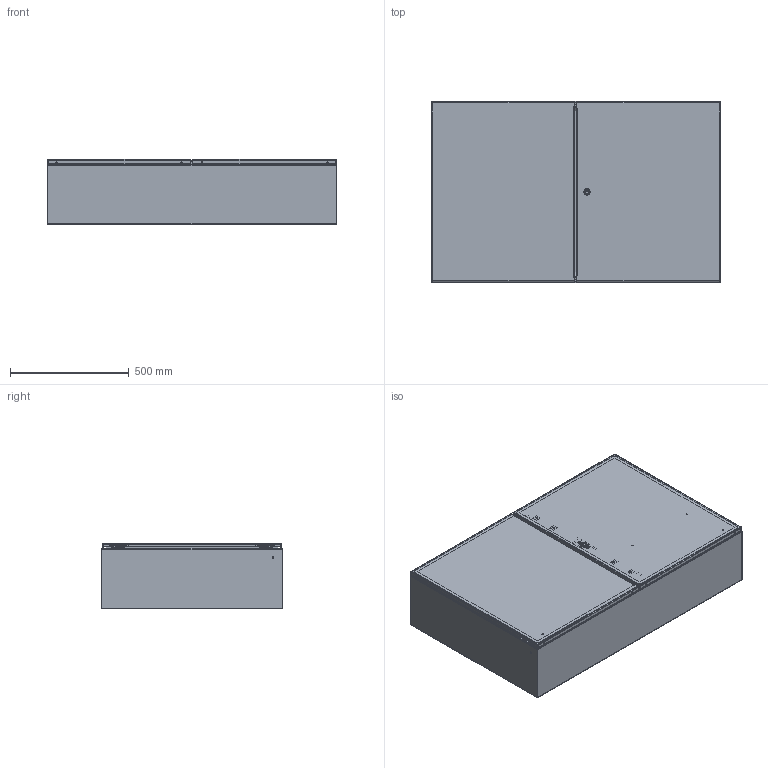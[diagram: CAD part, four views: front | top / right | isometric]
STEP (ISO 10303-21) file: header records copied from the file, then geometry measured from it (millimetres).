
FILE_DESCRIPTION (( 'STEP AP203' ), '1' );
FILE_NAME ('29444.step', '2015-03-30T07:52:55', ( '' ), ( '' ), 'SwSTEP 2.0', 'SolidWorks 2010', '' );
FILE_SCHEMA (( 'CONFIG_CONTROL_DESIGN' ));
Products named in the file (36): 29444; 89117523; 89117522_default; 89117520_default; 89117521_default; 23271001_After Weld; 87543027; 89076399; 89076193; 89056623; 87929507; 87929767; 87929769_Installed on Pin; 87938848_assy; 87938870_weldment; 87938828_Welded corner; 87938206; 87938860_assy; 87938880_weldment; 87938838_Welded corner; 99401225; 87931362_87931362; 87408405_Unlocked; 64102001_Latch Open; 87540678; 64210001; 64202001; 64208001; 64205001; 87541995; 87541994_Installed Height; 64206002; 64207001; 64103001; 99411834; 87938888
Assembly tree (60 placements, depth 5):
  29444
    89076399  x4
      89056623
      89076193
    87543027  x4
    87938848_assy
      87938870_weldment
        99401225
        87938828_Welded corner
      87938206
    87929507  x4
      87929769_Installed on Pin
      87929767
    89117523
      23271001_After Weld  x6
      99401225  x2
      89117521_default
      89117520_default
      89117522_default
    87938860_assy
      87408405_Unlocked
        64103001  x4
        64102001_Latch Open
          64205001  x2
          87541995
          64208001
          64210001
          64202001
          87540678
          87541994_Installed Height
        64206002  x2
        64207001  x2
        99411834  x2
      87938888
      87938880_weldment
        87931362_87931362  x2
        87938838_Welded corner
        99401225
Bounding box: 1219.2 x 762 x 274.7 mm (x, y, z)
Volume: 6009955.3 mm3; surface area: 6422774.9 mm2
Topology: 58 solids, 58 shells, 3769 faces, 9749 edges, 6132 vertices
Faces by surface type: plane 1702, cylinder 1069, bspline 684, torus 187, cone 87, sphere 40
Entity records: 80349 total; most frequent: CARTESIAN_POINT 28566, ORIENTED_EDGE 10364, DIRECTION 9042, EDGE_CURVE 5182, VERTEX_POINT 3265, AXIS2_PLACEMENT_3D 3031, VECTOR 2980, LINE 2980
